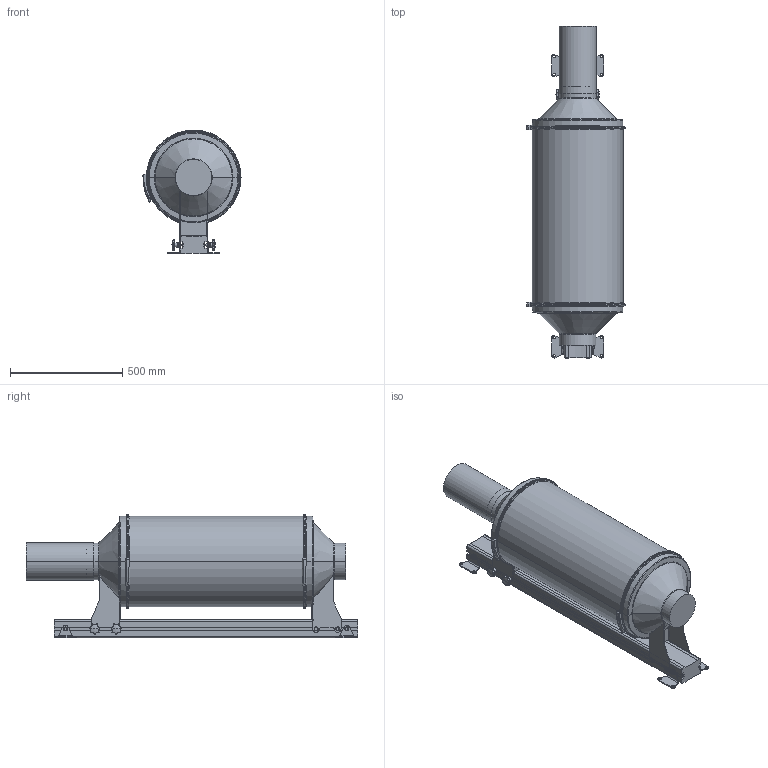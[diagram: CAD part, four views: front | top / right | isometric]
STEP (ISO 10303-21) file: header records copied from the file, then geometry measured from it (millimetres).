
FILE_DESCRIPTION((''),'2;1');
FILE_NAME('112025','2019-08-30T13:28:31',('Tomas Bellgran'),(''),'CREO PARAMETRIC BY PTC INC, 2018260','CREO PARAMETRIC BY PTC INC, 2018260','');
FILE_SCHEMA(('AUTOMOTIVE_DESIGN { 1 0 10303 214 1 1 1 1 }'));
Length unit declared in the file: millimetre
Products named in the file (11): 112102; 112152; 112153; 112144; 112159; 112154; 112158; 100505; 112082; 126056_L; 112025
Assembly tree (25 placements, depth 3):
  112025
    112102
    112144  x2
      112152
      112153
    112159  x2
    112154
    112158  x4
    100505  x8
    112082  x4
    126056_L
Bounding box: 435.88 x 1475.06 x 550.5 mm (x, y, z)
Volume: 139129666 mm3; surface area: 3353391.9 mm2
Topology: 27 solids, 39 shells, 922 faces, 2212 edges, 1368 vertices
Faces by surface type: cylinder 284, plane 266, bspline 136, cone 120, torus 108, sphere 8
Entity records: 23660 total; most frequent: CARTESIAN_POINT 9447, DIRECTION 1689, ORIENTED_EDGE 1556, EDGE_CURVE 782, PRESENTATION_STYLE_ASSIGNMENT 652, AXIS2_PLACEMENT_3D 652, STYLED_ITEM 645, PROPERTY_DEFINITION 595
